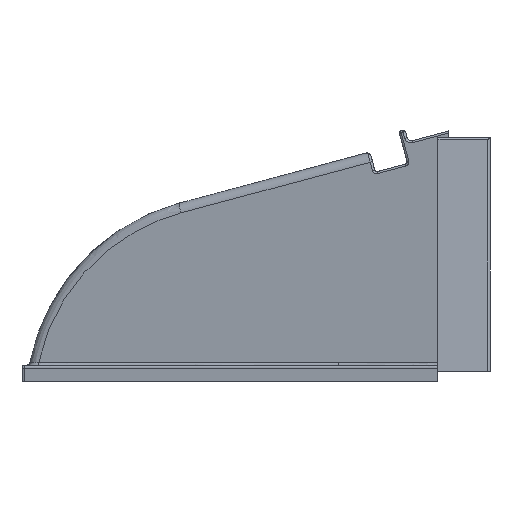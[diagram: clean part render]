
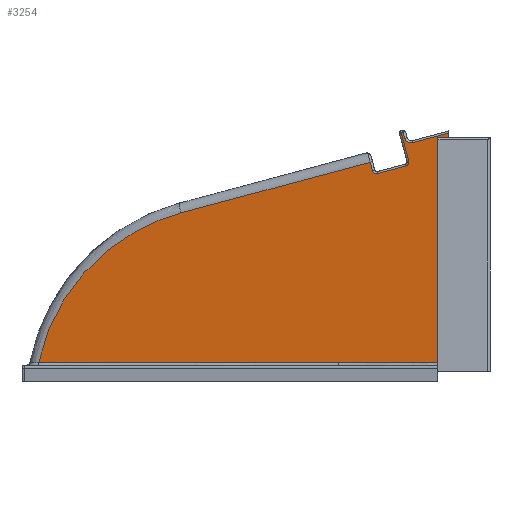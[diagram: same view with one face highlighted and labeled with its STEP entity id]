
A CAD part, left-side view. The second image highlights one B-rep face of the part: STEP entity #3254.
In plain terms, the highlighted planar face has unit normal (-0.985, 0.174, 0).
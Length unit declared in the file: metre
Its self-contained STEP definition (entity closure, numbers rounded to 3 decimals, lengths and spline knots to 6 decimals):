
#56=B_SPLINE_CURVE_WITH_KNOTS('',3,(#5157,#5158,#5159,#5160),.UNSPECIFIED.,.F.,.F.,(4,4),(0.,1.),.UNSPECIFIED.);
#179=ELLIPSE('',#3522,0.096466,0.095);
#181=ELLIPSE('',#3527,0.003046,0.003);
#182=ELLIPSE('',#3528,0.002031,0.002);
#183=ELLIPSE('',#3529,0.002031,0.002);
#535=ORIENTED_EDGE('',*,*,#1437,.T.);
#536=ORIENTED_EDGE('',*,*,#1438,.F.);
#537=ORIENTED_EDGE('',*,*,#1439,.F.);
#538=ORIENTED_EDGE('',*,*,#1440,.F.);
#539=ORIENTED_EDGE('',*,*,#1441,.F.);
#540=ORIENTED_EDGE('',*,*,#1442,.F.);
#541=ORIENTED_EDGE('',*,*,#1443,.F.);
#542=ORIENTED_EDGE('',*,*,#1444,.F.);
#543=ORIENTED_EDGE('',*,*,#1445,.F.);
#544=ORIENTED_EDGE('',*,*,#1446,.F.);
#545=ORIENTED_EDGE('',*,*,#1447,.F.);
#546=ORIENTED_EDGE('',*,*,#1448,.F.);
#547=ORIENTED_EDGE('',*,*,#1449,.F.);
#548=ORIENTED_EDGE('',*,*,#1431,.F.);
#549=ORIENTED_EDGE('',*,*,#1450,.F.);
#1431=EDGE_CURVE('',#1878,#1879,#179,.T.);
#1437=EDGE_CURVE('',#1882,#1883,#2167,.T.);
#1438=EDGE_CURVE('',#1884,#1883,#2168,.T.);
#1439=EDGE_CURVE('',#1885,#1884,#2169,.T.);
#1440=EDGE_CURVE('',#1886,#1885,#2170,.F.);
#1441=EDGE_CURVE('',#1887,#1886,#181,.F.);
#1442=EDGE_CURVE('',#1888,#1887,#2171,.F.);
#1443=EDGE_CURVE('',#1889,#1888,#2172,.F.);
#1444=EDGE_CURVE('',#1890,#1889,#2173,.F.);
#1445=EDGE_CURVE('',#1891,#1890,#182,.F.);
#1446=EDGE_CURVE('',#1892,#1891,#2174,.F.);
#1447=EDGE_CURVE('',#1893,#1892,#183,.F.);
#1448=EDGE_CURVE('',#1894,#1893,#2175,.F.);
#1449=EDGE_CURVE('',#1879,#1894,#2176,.F.);
#1450=EDGE_CURVE('',#1882,#1878,#56,.T.);
#1878=VERTEX_POINT('',#5113);
#1879=VERTEX_POINT('',#5114);
#1882=VERTEX_POINT('',#5132);
#1883=VERTEX_POINT('',#5133);
#1884=VERTEX_POINT('',#5135);
#1885=VERTEX_POINT('',#5137);
#1886=VERTEX_POINT('',#5139);
#1887=VERTEX_POINT('',#5141);
#1888=VERTEX_POINT('',#5143);
#1889=VERTEX_POINT('',#5145);
#1890=VERTEX_POINT('',#5147);
#1891=VERTEX_POINT('',#5149);
#1892=VERTEX_POINT('',#5151);
#1893=VERTEX_POINT('',#5153);
#1894=VERTEX_POINT('',#5155);
#2167=LINE('',#5131,#2409);
#2168=LINE('',#5134,#2410);
#2169=LINE('',#5136,#2411);
#2170=LINE('',#5138,#2412);
#2171=LINE('',#5142,#2413);
#2172=LINE('',#5144,#2414);
#2173=LINE('',#5146,#2415);
#2174=LINE('',#5150,#2416);
#2175=LINE('',#5154,#2417);
#2176=LINE('',#5156,#2418);
#2409=VECTOR('',#4056,1.);
#2410=VECTOR('',#4057,1.);
#2411=VECTOR('',#4058,1.);
#2412=VECTOR('',#4059,1.);
#2413=VECTOR('',#4062,1.);
#2414=VECTOR('',#4063,1.);
#2415=VECTOR('',#4064,1.);
#2416=VECTOR('',#4067,1.);
#2417=VECTOR('',#4070,1.);
#2418=VECTOR('',#4071,1.);
#2588=EDGE_LOOP('',(#535,#536,#537,#538,#539,#540,#541,#542,#543,#544,#545,#546,#547,#548,#549));
#2889=FACE_BOUND('',#2588,.T.);
#3172=PLANE('',#3526);
#3254=ADVANCED_FACE('Face appearance 1',(#2889),#3172,.T.);
#3522=AXIS2_PLACEMENT_3D('',#5112,#4045,#4046);
#3526=AXIS2_PLACEMENT_3D('',#5130,#4054,#4055);
#3527=AXIS2_PLACEMENT_3D('',#5140,#4060,#4061);
#3528=AXIS2_PLACEMENT_3D('',#5148,#4065,#4066);
#3529=AXIS2_PLACEMENT_3D('',#5152,#4068,#4069);
#4045=DIRECTION('',(0.985,-0.174,0.));
#4046=DIRECTION('',(-0.174,-0.985,0.));
#4054=DIRECTION('',(-0.985,0.174,0.));
#4055=DIRECTION('',(0.174,0.985,0.));
#4056=DIRECTION('',(0.,0.,1.));
#4057=DIRECTION('',(0.174,0.985,0.));
#4058=DIRECTION('',(0.,0.,-1.));
#4059=DIRECTION('',(0.168,0.952,-0.255));
#4060=DIRECTION('',(0.985,-0.174,0.));
#4061=DIRECTION('',(0.174,0.985,0.));
#4062=DIRECTION('',(0.046,0.259,0.965));
#4063=DIRECTION('',(0.168,0.952,-0.255));
#4064=DIRECTION('',(-0.046,-0.259,-0.965));
#4065=DIRECTION('',(0.985,-0.174,0.));
#4066=DIRECTION('',(0.174,0.985,0.));
#4067=DIRECTION('',(0.168,0.952,-0.255));
#4068=DIRECTION('',(0.985,-0.174,0.));
#4069=DIRECTION('',(0.174,0.985,0.));
#4070=DIRECTION('',(0.046,0.259,0.965));
#4071=DIRECTION('',(0.168,0.952,-0.255));
#5112=CARTESIAN_POINT('',(-0.294173,0.103939,0.768855));
#5113=CARTESIAN_POINT('',(-0.277803,0.196779,0.788998));
#5114=CARTESIAN_POINT('',(-0.289837,0.128527,0.860618));
#5130=CARTESIAN_POINT('',(-0.283751,0.163046,2.058864));
#5131=CARTESIAN_POINT('',(-0.311618,0.005,2.058864));
#5132=CARTESIAN_POINT('',(-0.311618,0.005,0.788998));
#5133=CARTESIAN_POINT('',(-0.311618,0.005,0.896894));
#5134=CARTESIAN_POINT('',(-0.283751,0.163046,0.896894));
#5135=CARTESIAN_POINT('',(-0.3125,0.,0.896894));
#5136=CARTESIAN_POINT('',(-0.3125,0.,2.058864));
#5137=CARTESIAN_POINT('',(-0.3125,0.,0.899011));
#5138=CARTESIAN_POINT('',(-0.312542,-0.00024,0.899076));
#5139=CARTESIAN_POINT('',(-0.309449,0.017301,0.894375));
#5140=CARTESIAN_POINT('',(-0.309312,0.018078,0.897273));
#5141=CARTESIAN_POINT('',(-0.308801,0.020976,0.896497));
#5142=CARTESIAN_POINT('',(-0.255942,0.320756,2.015292));
#5143=CARTESIAN_POINT('',(-0.308665,0.021752,0.899394));
#5144=CARTESIAN_POINT('',(-0.335043,-0.127848,0.93948));
#5145=CARTESIAN_POINT('',(-0.308494,0.022718,0.899136));
#5146=CARTESIAN_POINT('',(-0.255772,0.32172,2.015026));
#5147=CARTESIAN_POINT('',(-0.309133,0.019095,0.885613));
#5148=CARTESIAN_POINT('',(-0.308792,0.021026,0.885095));
#5149=CARTESIAN_POINT('',(-0.308884,0.020509,0.883163));
#5150=CARTESIAN_POINT('',(-0.335753,-0.131872,0.923994));
#5151=CARTESIAN_POINT('',(-0.306499,0.034032,0.87954));
#5152=CARTESIAN_POINT('',(-0.306408,0.034549,0.881472));
#5153=CARTESIAN_POINT('',(-0.306067,0.036481,0.880954));
#5154=CARTESIAN_POINT('',(-0.252713,0.339071,2.010232));
#5155=CARTESIAN_POINT('',(-0.305877,0.037563,0.884991));
#5156=CARTESIAN_POINT('',(-0.305729,0.038402,0.884767));
#5157=CARTESIAN_POINT('',(-0.311618,0.005,0.788998));
#5158=CARTESIAN_POINT('',(-0.300346,0.068926,0.788998));
#5159=CARTESIAN_POINT('',(-0.289075,0.132853,0.788998));
#5160=CARTESIAN_POINT('',(-0.277803,0.196779,0.788998));
